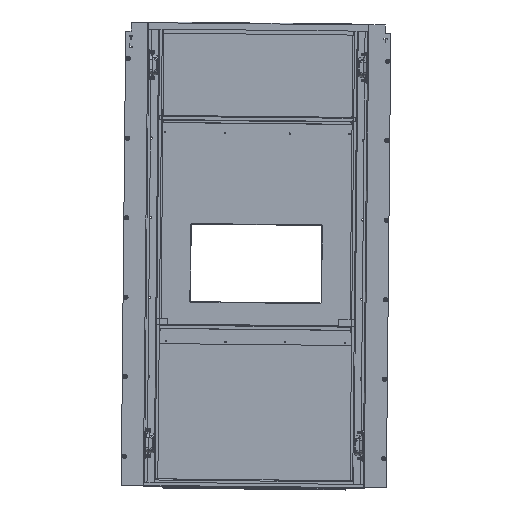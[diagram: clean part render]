
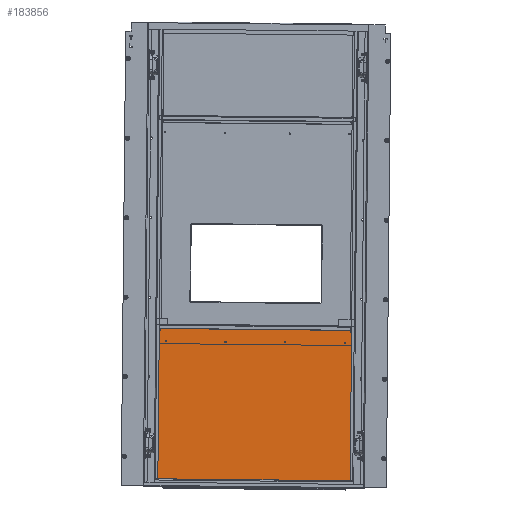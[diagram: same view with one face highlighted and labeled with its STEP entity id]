
A CAD part, top view. The second image highlights one B-rep face of the part: STEP entity #183856.
In plain terms, the highlighted planar face has unit normal (0, 0, 1).
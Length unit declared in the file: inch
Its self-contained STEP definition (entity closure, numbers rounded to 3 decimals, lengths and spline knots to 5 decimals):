
#537 = CIRCLE ( 'NONE', #124518, 0.09375 ) ;
#6447 = CARTESIAN_POINT ( 'NONE',  ( -9.64898, -28.45524, 3.28122 ) ) ;
#11906 = ORIENTED_EDGE ( 'NONE', *, *, #265883, .F. ) ;
#14339 = ORIENTED_EDGE ( 'NONE', *, *, #103852, .F. ) ;
#14995 = CIRCLE ( 'NONE', #42845, 0.09375 ) ;
#16599 = DIRECTION ( 'NONE',  ( 0., 0., 1. ) ) ;
#20531 = EDGE_LOOP ( 'NONE', ( #23328, #252345 ) ) ;
#21755 = CIRCLE ( 'NONE', #86902, 0.09375 ) ;
#21957 = AXIS2_PLACEMENT_3D ( 'NONE', #203712, #68993, #226224 ) ;
#23298 = EDGE_CURVE ( 'NONE', #155046, #133658, #208842, .T. ) ;
#23328 = ORIENTED_EDGE ( 'NONE', *, *, #182817, .F. ) ;
#26536 = CARTESIAN_POINT ( 'NONE',  ( -8.49852, -5.56412, 3.28121 ) ) ;
#28119 = DIRECTION ( 'NONE',  ( 0., 0., 1. ) ) ;
#29399 = EDGE_LOOP ( 'NONE', ( #186767, #238215 ) ) ;
#32277 = ORIENTED_EDGE ( 'NONE', *, *, #140766, .F. ) ;
#35134 = VECTOR ( 'NONE', #39135, 39.37008 ) ;
#37319 = CARTESIAN_POINT ( 'NONE',  ( 20.01037, -28.7484, 3.28122 ) ) ;
#39091 = CIRCLE ( 'NONE', #264911, 0.09375 ) ;
#39135 = DIRECTION ( 'NONE',  ( 1., -0.01, 0. ) ) ;
#40682 = VECTOR ( 'NONE', #68070, 39.37008 ) ;
#42845 = AXIS2_PLACEMENT_3D ( 'NONE', #189105, #54546, #211787 ) ;
#43428 = CARTESIAN_POINT ( 'NONE',  ( 19.31448, -5.65152, 3.28121 ) ) ;
#47103 = AXIS2_PLACEMENT_3D ( 'NONE', #162890, #28119, #185415 ) ;
#50145 = VECTOR ( 'NONE', #262469, 39.37008 ) ;
#50864 = VERTEX_POINT ( 'NONE', #233815 ) ;
#54454 = EDGE_CURVE ( 'NONE', #197481, #246270, #286321, .T. ) ;
#54546 = DIRECTION ( 'NONE',  ( 0., 0., 1. ) ) ;
#59647 = FACE_BOUND ( 'NONE', #29399, .T. ) ;
#61639 = EDGE_CURVE ( 'NONE', #214102, #223035, #95007, .T. ) ;
#62641 = CIRCLE ( 'NONE', #143544, 0.09375 ) ;
#63153 = ORIENTED_EDGE ( 'NONE', *, *, #61639, .T. ) ;
#66238 = VECTOR ( 'NONE', #141370, 39.37008 ) ;
#68070 = DIRECTION ( 'NONE',  ( 1., -0.01, 0. ) ) ;
#68993 = DIRECTION ( 'NONE',  ( 0., 0., 1. ) ) ;
#71874 = EDGE_CURVE ( 'NONE', #133658, #155046, #39091, .T. ) ;
#85164 = CARTESIAN_POINT ( 'NONE',  ( 20.5237, -28.75347, 3.28122 ) ) ;
#85569 = CARTESIAN_POINT ( 'NONE',  ( 19.31355, -5.74527, 3.28121 ) ) ;
#86902 = AXIS2_PLACEMENT_3D ( 'NONE', #265210, #130581, #287704 ) ;
#92457 = LINE ( 'NONE', #37319, #50145 ) ;
#93880 = ORIENTED_EDGE ( 'NONE', *, *, #279129, .F. ) ;
#95007 = LINE ( 'NONE', #128620, #35134 ) ;
#100396 = VERTEX_POINT ( 'NONE', #194177 ) ;
#100561 = LINE ( 'NONE', #225265, #40682 ) ;
#101362 = CARTESIAN_POINT ( 'NONE',  ( 0.50197, -5.55933, 3.28121 ) ) ;
#103852 = EDGE_CURVE ( 'NONE', #196889, #223035, #92457, .T. ) ;
#103918 = CARTESIAN_POINT ( 'NONE',  ( 20.01121, -28.66353, 3.28122 ) ) ;
#107767 = DIRECTION ( 'NONE',  ( -0.01, -1., 0. ) ) ;
#108161 = DIRECTION ( 'NONE',  ( -0.01, -1., 0. ) ) ;
#113760 = CARTESIAN_POINT ( 'NONE',  ( 19.31262, -5.83901, 3.28121 ) ) ;
#116105 = CARTESIAN_POINT ( 'NONE',  ( -9.64814, -28.37036, 3.28122 ) ) ;
#119292 = ORIENTED_EDGE ( 'NONE', *, *, #54454, .F. ) ;
#119460 = FACE_BOUND ( 'NONE', #196170, .T. ) ;
#120224 = EDGE_CURVE ( 'NONE', #246270, #197481, #21755, .T. ) ;
#123942 = DIRECTION ( 'NONE',  ( -0.01, -1., 0. ) ) ;
#124518 = AXIS2_PLACEMENT_3D ( 'NONE', #125719, #282910, #148395 ) ;
#125719 = CARTESIAN_POINT ( 'NONE',  ( 0.50197, -5.55933, 3.28121 ) ) ;
#128620 = CARTESIAN_POINT ( 'NONE',  ( -9.64814, -28.37036, 3.28122 ) ) ;
#130345 = CIRCLE ( 'NONE', #21957, 0.09375 ) ;
#130581 = DIRECTION ( 'NONE',  ( 0., 0., 1. ) ) ;
#133138 = LINE ( 'NONE', #6447, #66238 ) ;
#133658 = VERTEX_POINT ( 'NONE', #113760 ) ;
#140766 = EDGE_CURVE ( 'NONE', #100396, #252361, #14995, .T. ) ;
#141370 = DIRECTION ( 'NONE',  ( 0.01, 1., 0. ) ) ;
#143544 = AXIS2_PLACEMENT_3D ( 'NONE', #101362, #258630, #123942 ) ;
#148395 = DIRECTION ( 'NONE',  ( -0.01, -1., 0. ) ) ;
#151404 = CARTESIAN_POINT ( 'NONE',  ( 19.31355, -5.74527, 3.28121 ) ) ;
#153034 = EDGE_CURVE ( 'NONE', #252361, #100396, #130345, .T. ) ;
#155046 = VERTEX_POINT ( 'NONE', #43428 ) ;
#159544 = EDGE_LOOP ( 'NONE', ( #93880, #63153, #14339, #11906 ) ) ;
#162890 = CARTESIAN_POINT ( 'NONE',  ( -8.49759, -5.47037, 3.28121 ) ) ;
#173979 = DIRECTION ( 'NONE',  ( -0.01, -1., 0. ) ) ;
#179299 = FACE_BOUND ( 'NONE', #20531, .T. ) ;
#182817 = EDGE_CURVE ( 'NONE', #50864, #245929, #537, .T. ) ;
#183856 = ADVANCED_FACE ( 'NONE', ( #59647, #119460, #179299, #239047, #231990 ), #241373, .T. ) ;
#185415 = DIRECTION ( 'NONE',  ( -0.01, -1., 0. ) ) ;
#186767 = ORIENTED_EDGE ( 'NONE', *, *, #23298, .F. ) ;
#189105 = CARTESIAN_POINT ( 'NONE',  ( 10.31399, -5.65631, 3.28121 ) ) ;
#194177 = CARTESIAN_POINT ( 'NONE',  ( 10.31306, -5.75006, 3.28121 ) ) ;
#196170 = EDGE_LOOP ( 'NONE', ( #263481, #32277 ) ) ;
#196419 = AXIS2_PLACEMENT_3D ( 'NONE', #85164, #242348, #107767 ) ;
#196889 = VERTEX_POINT ( 'NONE', #275608 ) ;
#197481 = VERTEX_POINT ( 'NONE', #26536 ) ;
#197520 = ORIENTED_EDGE ( 'NONE', *, *, #120224, .F. ) ;
#203712 = CARTESIAN_POINT ( 'NONE',  ( 10.31399, -5.65631, 3.28121 ) ) ;
#208842 = CIRCLE ( 'NONE', #248007, 0.09375 ) ;
#211787 = DIRECTION ( 'NONE',  ( -0.01, -1., 0. ) ) ;
#214102 = VERTEX_POINT ( 'NONE', #116105 ) ;
#219455 = EDGE_CURVE ( 'NONE', #245929, #50864, #62641, .T. ) ;
#222360 = CARTESIAN_POINT ( 'NONE',  ( 0.50104, -5.65307, 3.28121 ) ) ;
#223035 = VERTEX_POINT ( 'NONE', #103918 ) ;
#225265 = CARTESIAN_POINT ( 'NONE',  ( 20.7553, -5.322, 3.28121 ) ) ;
#226224 = DIRECTION ( 'NONE',  ( -0.01, -1., 0. ) ) ;
#231990 = FACE_OUTER_BOUND ( 'NONE', #159544, .T. ) ;
#233815 = CARTESIAN_POINT ( 'NONE',  ( 0.5029, -5.46558, 3.28121 ) ) ;
#238215 = ORIENTED_EDGE ( 'NONE', *, *, #71874, .F. ) ;
#239047 = FACE_BOUND ( 'NONE', #260262, .T. ) ;
#241037 = CARTESIAN_POINT ( 'NONE',  ( -9.41737, -5.02376, 3.28121 ) ) ;
#241373 = PLANE ( 'NONE',  #196419 ) ;
#242348 = DIRECTION ( 'NONE',  ( 0., 0., 1. ) ) ;
#242752 = DIRECTION ( 'NONE',  ( 0., 0., 1. ) ) ;
#245929 = VERTEX_POINT ( 'NONE', #222360 ) ;
#246270 = VERTEX_POINT ( 'NONE', #277244 ) ;
#248007 = AXIS2_PLACEMENT_3D ( 'NONE', #151404, #16599, #173979 ) ;
#252345 = ORIENTED_EDGE ( 'NONE', *, *, #219455, .F. ) ;
#252361 = VERTEX_POINT ( 'NONE', #262733 ) ;
#258630 = DIRECTION ( 'NONE',  ( 0., 0., 1. ) ) ;
#260262 = EDGE_LOOP ( 'NONE', ( #197520, #119292 ) ) ;
#262469 = DIRECTION ( 'NONE',  ( -0.01, -1., 0. ) ) ;
#262601 = VERTEX_POINT ( 'NONE', #241037 ) ;
#262733 = CARTESIAN_POINT ( 'NONE',  ( 10.31492, -5.56257, 3.28121 ) ) ;
#263481 = ORIENTED_EDGE ( 'NONE', *, *, #153034, .F. ) ;
#264911 = AXIS2_PLACEMENT_3D ( 'NONE', #85569, #242752, #108161 ) ;
#265210 = CARTESIAN_POINT ( 'NONE',  ( -8.49759, -5.47037, 3.28121 ) ) ;
#265883 = EDGE_CURVE ( 'NONE', #262601, #196889, #100561, .T. ) ;
#275608 = CARTESIAN_POINT ( 'NONE',  ( 20.24198, -5.31692, 3.28121 ) ) ;
#277244 = CARTESIAN_POINT ( 'NONE',  ( -8.49667, -5.37663, 3.28121 ) ) ;
#279129 = EDGE_CURVE ( 'NONE', #214102, #262601, #133138, .T. ) ;
#282910 = DIRECTION ( 'NONE',  ( 0., 0., 1. ) ) ;
#286321 = CIRCLE ( 'NONE', #47103, 0.09375 ) ;
#287704 = DIRECTION ( 'NONE',  ( -0.01, -1., 0. ) ) ;
